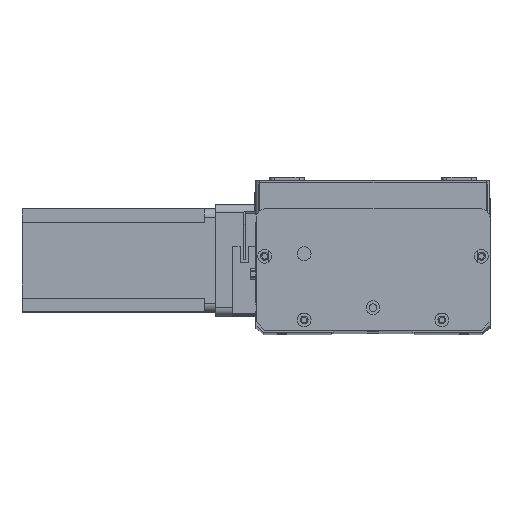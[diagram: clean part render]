
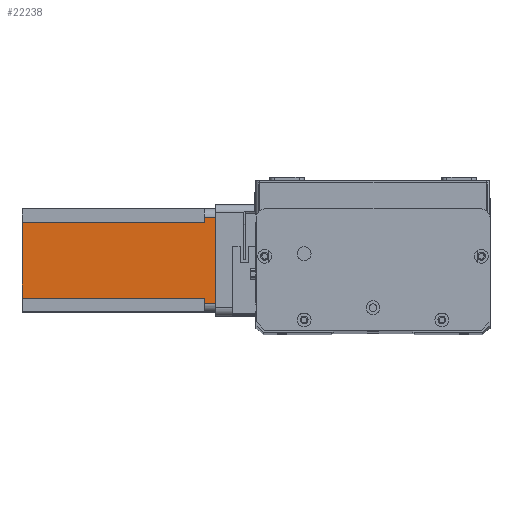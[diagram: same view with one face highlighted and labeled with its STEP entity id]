
A CAD part, top view. The second image highlights one B-rep face of the part: STEP entity #22238.
In plain terms, the highlighted planar face has unit normal (0, 0, 1) as drawn and (0, -1, 0) by its records, which use the part's own axes.
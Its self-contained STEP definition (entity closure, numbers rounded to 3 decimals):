
#126 = VECTOR ( 'NONE', #19104, 1000. ) ;
#322 = VERTEX_POINT ( 'NONE', #15415 ) ;
#633 = CARTESIAN_POINT ( 'NONE',  ( 0., 0., 0. ) ) ;
#764 = DIRECTION ( 'NONE',  ( 0., 0., -1. ) ) ;
#1717 = LINE ( 'NONE', #13388, #12296 ) ;
#1772 = EDGE_CURVE ( 'NONE', #22392, #23606, #12121, .T. ) ;
#1787 = ORIENTED_EDGE ( 'NONE', *, *, #22308, .T. ) ;
#2268 = ORIENTED_EDGE ( 'NONE', *, *, #25567, .F. ) ;
#2889 = EDGE_CURVE ( 'NONE', #322, #4736, #14223, .T. ) ;
#2976 = ORIENTED_EDGE ( 'NONE', *, *, #2889, .F. ) ;
#3269 = DIRECTION ( 'NONE',  ( 0., 0., -1. ) ) ;
#3848 = CARTESIAN_POINT ( 'NONE',  ( 8., 0., -112.5 ) ) ;
#4175 = CARTESIAN_POINT ( 'NONE',  ( 8., 0., -6.5 ) ) ;
#4736 = VERTEX_POINT ( 'NONE', #16313 ) ;
#4788 = VECTOR ( 'NONE', #5939, 1000. ) ;
#5406 = LINE ( 'NONE', #14190, #20617 ) ;
#5939 = DIRECTION ( 'NONE',  ( 0., 0., 1. ) ) ;
#7799 = AXIS2_PLACEMENT_3D ( 'NONE', #21066, #15195, #3269 ) ;
#7948 = LINE ( 'NONE', #13743, #17888 ) ;
#8956 = VECTOR ( 'NONE', #764, 1000. ) ;
#8998 = VERTEX_POINT ( 'NONE', #3848 ) ;
#9144 = VERTEX_POINT ( 'NONE', #4175 ) ;
#9611 = CARTESIAN_POINT ( 'NONE',  ( 5., 0., -6.5 ) ) ;
#9740 = DIRECTION ( 'NONE',  ( 0., 0., 1. ) ) ;
#9747 = EDGE_LOOP ( 'NONE', ( #1787, #12884, #19005, #25210, #2268, #12771, #16057, #2976 ) ) ;
#9847 = VECTOR ( 'NONE', #13875, 1000. ) ;
#11930 = LINE ( 'NONE', #15141, #126 ) ;
#12121 = LINE ( 'NONE', #633, #22021 ) ;
#12296 = VECTOR ( 'NONE', #25232, 1000. ) ;
#12664 = CARTESIAN_POINT ( 'NONE',  ( 52., 0., -112.5 ) ) ;
#12771 = ORIENTED_EDGE ( 'NONE', *, *, #16309, .F. ) ;
#12884 = ORIENTED_EDGE ( 'NONE', *, *, #25184, .T. ) ;
#13388 = CARTESIAN_POINT ( 'NONE',  ( 52., 0., -6.5 ) ) ;
#13743 = CARTESIAN_POINT ( 'NONE',  ( 8., 0., -112.5 ) ) ;
#13756 = CARTESIAN_POINT ( 'NONE',  ( 55., 0., 0. ) ) ;
#13855 = CARTESIAN_POINT ( 'NONE',  ( 55., 0., -112.5 ) ) ;
#13875 = DIRECTION ( 'NONE',  ( 0., 0., -1. ) ) ;
#14190 = CARTESIAN_POINT ( 'NONE',  ( 0., 0., -112.5 ) ) ;
#14223 = LINE ( 'NONE', #12664, #8956 ) ;
#14416 = VERTEX_POINT ( 'NONE', #9611 ) ;
#14749 = LINE ( 'NONE', #13855, #4788 ) ;
#14766 = CARTESIAN_POINT ( 'NONE',  ( 55., 0., -6.5 ) ) ;
#15141 = CARTESIAN_POINT ( 'NONE',  ( 8., 0., -6.5 ) ) ;
#15195 = DIRECTION ( 'NONE',  ( 0., -1., 0. ) ) ;
#15415 = CARTESIAN_POINT ( 'NONE',  ( 52., 0., -6.5 ) ) ;
#15629 = CARTESIAN_POINT ( 'NONE',  ( 5., 0., 0. ) ) ;
#15744 = LINE ( 'NONE', #15867, #9847 ) ;
#15867 = CARTESIAN_POINT ( 'NONE',  ( 5., 0., -112.5 ) ) ;
#16057 = ORIENTED_EDGE ( 'NONE', *, *, #23119, .T. ) ;
#16309 = EDGE_CURVE ( 'NONE', #8998, #9144, #7948, .T. ) ;
#16313 = CARTESIAN_POINT ( 'NONE',  ( 52., 0., -112.5 ) ) ;
#17084 = PLANE ( 'NONE',  #7799 ) ;
#17888 = VECTOR ( 'NONE', #9740, 1000. ) ;
#18083 = DIRECTION ( 'NONE',  ( 1., 0., 0. ) ) ;
#18169 = FACE_OUTER_BOUND ( 'NONE', #9747, .T. ) ;
#18491 = DIRECTION ( 'NONE',  ( 1., 0., 0. ) ) ;
#19005 = ORIENTED_EDGE ( 'NONE', *, *, #1772, .F. ) ;
#19104 = DIRECTION ( 'NONE',  ( -1., 0., 0. ) ) ;
#20617 = VECTOR ( 'NONE', #18083, 1000. ) ;
#21066 = CARTESIAN_POINT ( 'NONE',  ( 0., 0., -112.5 ) ) ;
#21103 = VERTEX_POINT ( 'NONE', #14766 ) ;
#21422 = EDGE_CURVE ( 'NONE', #22392, #14416, #15744, .T. ) ;
#22021 = VECTOR ( 'NONE', #18491, 1000. ) ;
#22238 = ADVANCED_FACE ( 'NONE', ( #18169 ), #17084, .T. ) ;
#22308 = EDGE_CURVE ( 'NONE', #322, #21103, #1717, .T. ) ;
#22392 = VERTEX_POINT ( 'NONE', #15629 ) ;
#23119 = EDGE_CURVE ( 'NONE', #8998, #4736, #5406, .T. ) ;
#23606 = VERTEX_POINT ( 'NONE', #13756 ) ;
#25184 = EDGE_CURVE ( 'NONE', #21103, #23606, #14749, .T. ) ;
#25210 = ORIENTED_EDGE ( 'NONE', *, *, #21422, .T. ) ;
#25232 = DIRECTION ( 'NONE',  ( 1., 0., 0. ) ) ;
#25567 = EDGE_CURVE ( 'NONE', #9144, #14416, #11930, .T. ) ;
